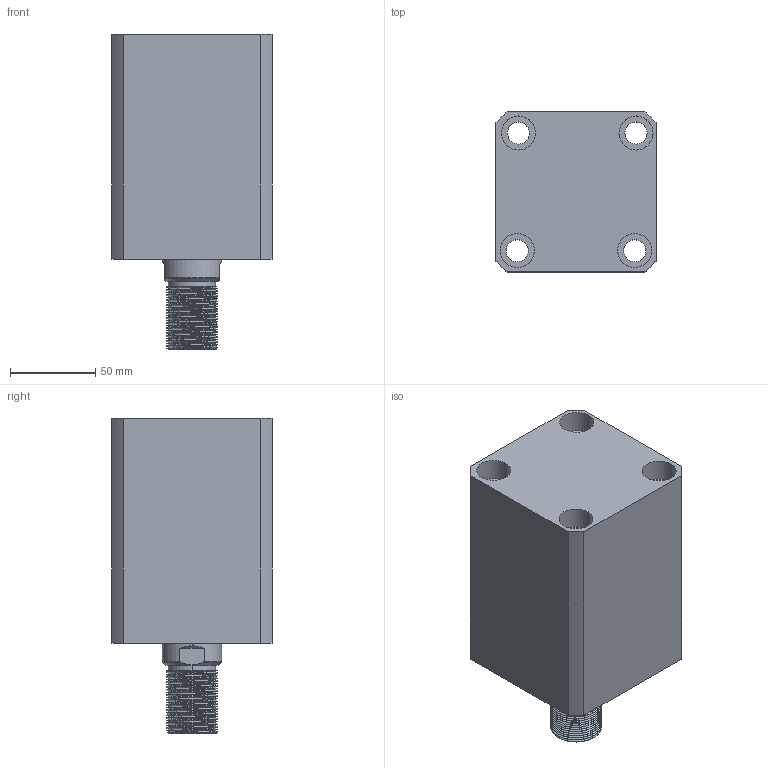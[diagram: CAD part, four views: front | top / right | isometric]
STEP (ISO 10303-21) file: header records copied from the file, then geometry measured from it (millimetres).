
FILE_DESCRIPTION (( 'STEP AP214' ), '1' );
FILE_NAME ('chtb-sdma63x65w_asm.STEP', '2018-05-18T09:23:28', ( 'Windows' ), ( 'Microsoft' ), 'SwSTEP 2.0', 'SolidWorks 2015', '' );
FILE_SCHEMA (( 'AUTOMOTIVE_DESIGN' ));
Length unit declared in the file: millimetre
Products named in the file (4): CHTB-SDMA63X65NBT; CHTB63X65WHSG; CHTB-63QG; chtb-sdma63x65w_asm
Assembly tree (3 placements, depth 2):
  chtb-sdma63x65w_asm
    CHTB-63QG
    CHTB63X65WHSG
    CHTB-SDMA63X65NBT
Bounding box: 94 x 94 x 185 mm (x, y, z)
Volume: 962721.4 mm3; surface area: 163298.8 mm2
Topology: 3 solids, 3 shells, 219 faces, 632 edges, 430 vertices
Faces by surface type: cylinder 156, plane 34, bspline 14, cone 9, torus 6
Entity records: 22297 total; most frequent: CARTESIAN_POINT 17024, ORIENTED_EDGE 1256, DIRECTION 878, EDGE_CURVE 628, VERTEX_POINT 430, AXIS2_PLACEMENT_3D 343, EDGE_LOOP 252, FACE_OUTER_BOUND 219
